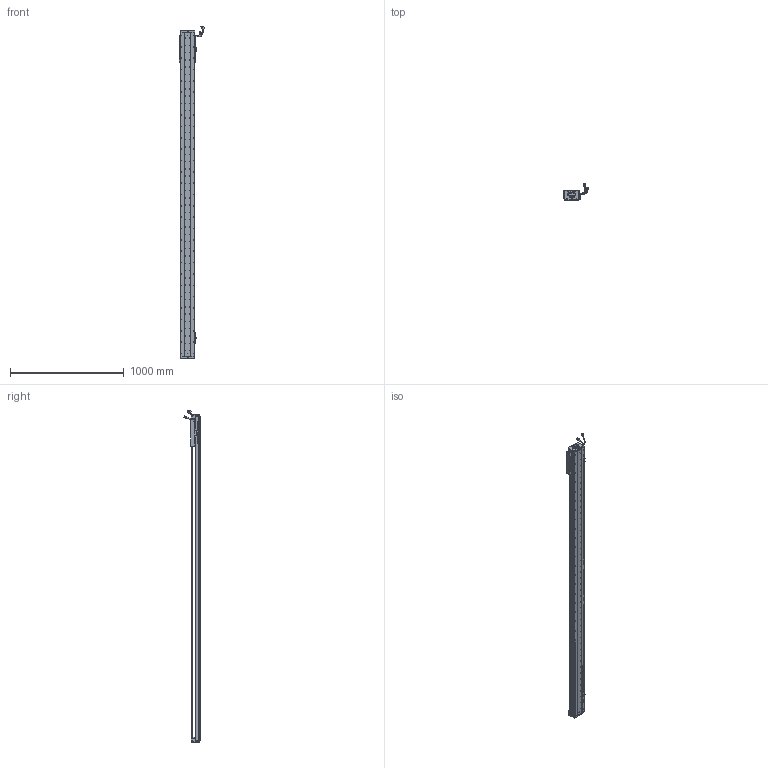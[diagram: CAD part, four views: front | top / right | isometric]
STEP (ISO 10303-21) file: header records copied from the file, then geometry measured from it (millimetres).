
FILE_DESCRIPTION (( 'STEP AP203' ), '1' );
FILE_NAME ('Z3-RY120D-1-L500-B-K.SLDASM_2550.step', '2021-05-17T05:50:36', ( '盈信电脑' ), ( '东莞市道滘镇水果街19号' ), 'SwSTEP 2.0', 'SolidWorks 2016', '' );
FILE_SCHEMA (( 'CONFIG_CONTROL_DESIGN' ));
Length unit declared in the file: millimetre
Products named in the file (37): Z3-RY120-500-倰第菁釱_2550; SHIELDPLATE; SCREW-M1.7-1; 080黍杅芛假蚾釱21遴; HARNESS-Part-2; Z3-RY120D-1-L500-B-K.SLDASM_2550; HARNESS; SCREW-M1.6-2; PSLH080_PSLF2; SCALE-Part-2; 672嫖萇羲壽假蚾釱; 榋妏寠巭燃_暯_M2_2; 140雄赽晤鎢ん堤盄; Z-RY120D詩湍奻揤裔; SEAL-Part-1; COVER-Part-1; LABEL-Part-1; Z-RY120D詩湍狟揤裔; RY100FB-遵嫖萇覜茼え; COVER; PBU_SHEET; 140蚥薯蝶輸; Z-120詩湍傷裔啣; SCALE; Z3-RY120-L500詩湍100mm遵_2550; SEAL; SCREW-M1.6-3; SCALE-Part-1; HARNESS-Part-1; SCREW-M1.6-1; HOLDER0; SCREW-M1.7; 覜茼ん672; 120-Z-臏賑輸盄裔(21遴); LABEL; Z3-RY120铝滑块（21款）; SCREW-M1.6
Assembly tree (43 placements, depth 4):
  Z3-RY120D-1-L500-B-K.SLDASM_2550
    Z3-RY120-500-倰第菁釱_2550
    覜茼ん672  x3
    672嫖萇羲壽假蚾釱  x2
    Z3-RY120铝滑块（21款）
    PSLH080_PSLF2
      SCALE
        SCALE-Part-1
        SCALE-Part-2
      HARNESS
        HARNESS-Part-1
        HARNESS-Part-2
      LABEL
        LABEL-Part-1
      COVER
        COVER-Part-1
      SEAL
        SEAL-Part-1
      榋妏寠巭燃_暯_M2_2
      SHIELDPLATE
      SCREW-M1.7
      SCREW-M1.7-1
      PBU_SHEET
      SCREW-M1.6
      SCREW-M1.6-1
      SCREW-M1.6-2
      SCREW-M1.6-3
      HOLDER0
    080黍杅芛假蚾釱21遴
    120-Z-臏賑輸盄裔(21遴)
    140雄赽晤鎢ん堤盄
    140蚥薯蝶輸  x2
    RY100FB-遵嫖萇覜茼え
    Z-120詩湍傷裔啣  x2
    Z-RY120D詩湍奻揤裔  x2
    Z-RY120D詩湍狟揤裔  x2
    Z3-RY120-L500詩湍100mm遵_2550
Bounding box: 222.83 x 140.94 x 2923.99 mm (x, y, z)
Volume: 6787833.5 mm3; surface area: 2379253.8 mm2
Topology: 38 solids, 38 shells, 3849 faces, 11033 edges, 6960 vertices
Faces by surface type: cylinder 2053, plane 1272, cone 402, torus 69, bspline 53
Entity records: 130934 total; most frequent: CARTESIAN_POINT 40695, ORIENTED_EDGE 18786, DIRECTION 17075, EDGE_CURVE 9393, AXIS2_PLACEMENT_3D 6322, VERTEX_POINT 6080, VECTOR 4431, LINE 4431
